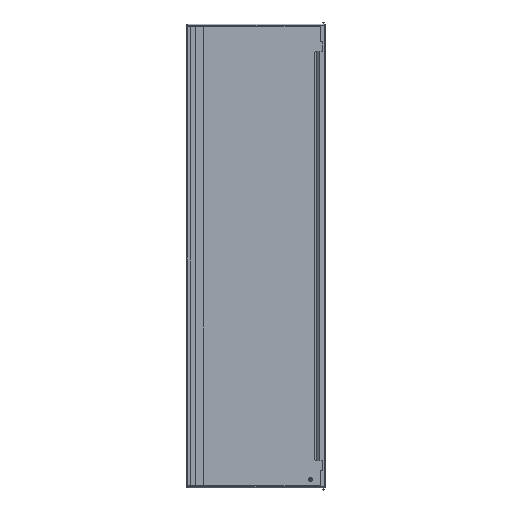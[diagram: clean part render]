
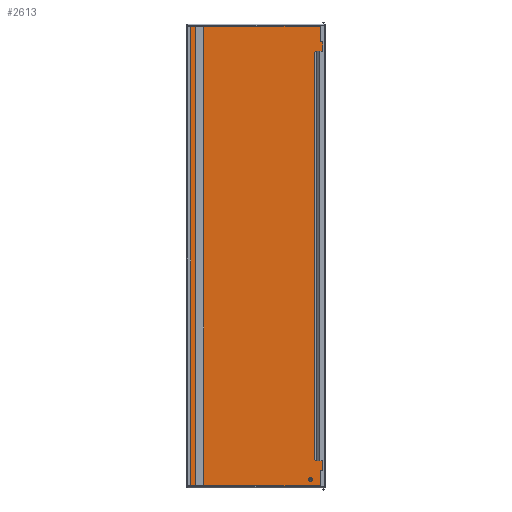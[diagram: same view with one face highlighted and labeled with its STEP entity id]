
A CAD part, top view. The second image highlights one B-rep face of the part: STEP entity #2613.
In plain terms, the highlighted planar face has unit normal (0, 0, 1).
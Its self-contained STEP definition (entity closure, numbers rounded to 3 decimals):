
#376 = EDGE_LOOP ( 'NONE', ( #1842, #1844, #1843, #1845 ) ) ;
#377 = EDGE_LOOP ( 'NONE', ( #1846, #1848, #1847, #1849, #1850, #1851 ) ) ;
#378 = EDGE_LOOP ( 'NONE', ( #1853, #1854 ) ) ;
#379 = EDGE_LOOP ( 'NONE', ( #1852, #1856, #1855, #1857 ) ) ;
#561 = VERTEX_POINT ( 'NONE', #1625 ) ;
#562 = VERTEX_POINT ( 'NONE', #1624 ) ;
#575 = VERTEX_POINT ( 'NONE', #1611 ) ;
#576 = VERTEX_POINT ( 'NONE', #1610 ) ;
#577 = VERTEX_POINT ( 'NONE', #1609 ) ;
#578 = VERTEX_POINT ( 'NONE', #1608 ) ;
#579 = VERTEX_POINT ( 'NONE', #1607 ) ;
#580 = VERTEX_POINT ( 'NONE', #1606 ) ;
#581 = VERTEX_POINT ( 'NONE', #1605 ) ;
#582 = VERTEX_POINT ( 'NONE', #1604 ) ;
#583 = VERTEX_POINT ( 'NONE', #1603 ) ;
#584 = VERTEX_POINT ( 'NONE', #1602 ) ;
#585 = VERTEX_POINT ( 'NONE', #1601 ) ;
#586 = VERTEX_POINT ( 'NONE', #1600 ) ;
#587 = VERTEX_POINT ( 'NONE', #1599 ) ;
#588 = VERTEX_POINT ( 'NONE', #1598 ) ;
#997 = FACE_BOUND ( 'NONE', #379, .T. ) ;
#999 = FACE_BOUND ( 'NONE', #378, .T. ) ;
#1001 = FACE_BOUND ( 'NONE', #377, .T. ) ;
#1003 = AXIS2_PLACEMENT_3D ( 'NONE', #1301, #1300, #1299 ) ;
#1007 = FACE_OUTER_BOUND ( 'NONE', #376, .T. ) ;
#1299 = DIRECTION ( 'NONE',  ( 1., 0., 0. ) ) ;
#1300 = DIRECTION ( 'NONE',  ( 0., 0., 1. ) ) ;
#1301 = CARTESIAN_POINT ( 'NONE',  ( 0., 0., -12. ) ) ;
#1302 = PLANE ( 'NONE',  #1003 ) ;
#1598 = CARTESIAN_POINT ( 'NONE',  ( -224.6, -856.75, -12. ) ) ;
#1599 = CARTESIAN_POINT ( 'NONE',  ( -195.5, -856.75, -12. ) ) ;
#1600 = CARTESIAN_POINT ( 'NONE',  ( -224.6, 856.75, -12. ) ) ;
#1601 = CARTESIAN_POINT ( 'NONE',  ( -195.5, 856.75, -12. ) ) ;
#1602 = CARTESIAN_POINT ( 'NONE',  ( 224.621, 765.75, -12. ) ) ;
#1603 = CARTESIAN_POINT ( 'NONE',  ( 220.121, 761.25, -12. ) ) ;
#1604 = CARTESIAN_POINT ( 'NONE',  ( 220.121, -761.25, -12. ) ) ;
#1605 = CARTESIAN_POINT ( 'NONE',  ( 224.621, -765.75, -12. ) ) ;
#1606 = CARTESIAN_POINT ( 'NONE',  ( 226.879, 765.75, -12. ) ) ;
#1607 = CARTESIAN_POINT ( 'NONE',  ( 226.879, -765.75, -12. ) ) ;
#1608 = CARTESIAN_POINT ( 'NONE',  ( -256., -863.75, -12. ) ) ;
#1609 = CARTESIAN_POINT ( 'NONE',  ( -256., 863.75, -12. ) ) ;
#1610 = CARTESIAN_POINT ( 'NONE',  ( 256., -863.75, -12. ) ) ;
#1611 = CARTESIAN_POINT ( 'NONE',  ( 256., 863.75, -12. ) ) ;
#1624 = CARTESIAN_POINT ( 'NONE',  ( 204.25, -836.75, -12. ) ) ;
#1625 = CARTESIAN_POINT ( 'NONE',  ( 203.75, -836.75, -12. ) ) ;
#1842 = ORIENTED_EDGE ( 'NONE', *, *, #2764, .F. ) ;
#1843 = ORIENTED_EDGE ( 'NONE', *, *, #2765, .F. ) ;
#1844 = ORIENTED_EDGE ( 'NONE', *, *, #2763, .F. ) ;
#1845 = ORIENTED_EDGE ( 'NONE', *, *, #2767, .F. ) ;
#1846 = ORIENTED_EDGE ( 'NONE', *, *, #2768, .F. ) ;
#1847 = ORIENTED_EDGE ( 'NONE', *, *, #2769, .T. ) ;
#1848 = ORIENTED_EDGE ( 'NONE', *, *, #2766, .T. ) ;
#1849 = ORIENTED_EDGE ( 'NONE', *, *, #2770, .T. ) ;
#1850 = ORIENTED_EDGE ( 'NONE', *, *, #2771, .T. ) ;
#1851 = ORIENTED_EDGE ( 'NONE', *, *, #2772, .F. ) ;
#1852 = ORIENTED_EDGE ( 'NONE', *, *, #2775, .F. ) ;
#1853 = ORIENTED_EDGE ( 'NONE', *, *, #2773, .F. ) ;
#1854 = ORIENTED_EDGE ( 'NONE', *, *, #2747, .F. ) ;
#1855 = ORIENTED_EDGE ( 'NONE', *, *, #2776, .F. ) ;
#1856 = ORIENTED_EDGE ( 'NONE', *, *, #2774, .F. ) ;
#1857 = ORIENTED_EDGE ( 'NONE', *, *, #2777, .F. ) ;
#2508 = CIRCLE ( 'NONE', #4599, 0.25 ) ;
#2509 = CIRCLE ( 'NONE', #4613, 4.5 ) ;
#2510 = CIRCLE ( 'NONE', #4604, 4.5 ) ;
#2517 = CIRCLE ( 'NONE', #4371, 0.25 ) ;
#2613 = ADVANCED_FACE ( 'NONE', ( #1007, #1001, #999, #997 ), #1302, .T. ) ;
#2747 = EDGE_CURVE ( 'NONE', #561, #562, #2517, .T. ) ;
#2763 = EDGE_CURVE ( 'NONE', #577, #575, #4756, .T. ) ;
#2764 = EDGE_CURVE ( 'NONE', #575, #576, #4753, .T. ) ;
#2765 = EDGE_CURVE ( 'NONE', #578, #577, #4750, .T. ) ;
#2766 = EDGE_CURVE ( 'NONE', #579, #581, #4747, .T. ) ;
#2767 = EDGE_CURVE ( 'NONE', #576, #578, #4744, .T. ) ;
#2768 = EDGE_CURVE ( 'NONE', #579, #580, #4741, .T. ) ;
#2769 = EDGE_CURVE ( 'NONE', #581, #582, #2510, .T. ) ;
#2770 = EDGE_CURVE ( 'NONE', #582, #583, #4735, .T. ) ;
#2771 = EDGE_CURVE ( 'NONE', #583, #584, #2509, .T. ) ;
#2772 = EDGE_CURVE ( 'NONE', #580, #584, #4729, .T. ) ;
#2773 = EDGE_CURVE ( 'NONE', #562, #561, #2508, .T. ) ;
#2774 = EDGE_CURVE ( 'NONE', #587, #585, #4723, .T. ) ;
#2775 = EDGE_CURVE ( 'NONE', #585, #586, #4720, .T. ) ;
#2776 = EDGE_CURVE ( 'NONE', #588, #587, #4717, .T. ) ;
#2777 = EDGE_CURVE ( 'NONE', #586, #588, #4714, .T. ) ;
#4371 = AXIS2_PLACEMENT_3D ( 'NONE', #4796, #4795, #4794 ) ;
#4590 = VECTOR ( 'NONE', #4712, 1000. ) ;
#4591 = VECTOR ( 'NONE', #4715, 1000. ) ;
#4594 = VECTOR ( 'NONE', #4718, 1000. ) ;
#4597 = VECTOR ( 'NONE', #4721, 1000. ) ;
#4598 = VECTOR ( 'NONE', #4727, 1000. ) ;
#4599 = AXIS2_PLACEMENT_3D ( 'NONE', #4730, #4726, #4725 ) ;
#4601 = VECTOR ( 'NONE', #4733, 1000. ) ;
#4602 = VECTOR ( 'NONE', #4739, 1000. ) ;
#4604 = AXIS2_PLACEMENT_3D ( 'NONE', #4760, #4738, #4737 ) ;
#4605 = VECTOR ( 'NONE', #4742, 1000. ) ;
#4607 = VECTOR ( 'NONE', #4745, 1000. ) ;
#4608 = VECTOR ( 'NONE', #4748, 1000. ) ;
#4609 = VECTOR ( 'NONE', #4751, 1000. ) ;
#4610 = VECTOR ( 'NONE', #4754, 1000. ) ;
#4613 = AXIS2_PLACEMENT_3D ( 'NONE', #4736, #4732, #4731 ) ;
#4712 = DIRECTION ( 'NONE',  ( 0., -1., 0. ) ) ;
#4713 = CARTESIAN_POINT ( 'NONE',  ( -224.6, -856.75, -12. ) ) ;
#4714 = LINE ( 'NONE', #4713, #4590 ) ;
#4715 = DIRECTION ( 'NONE',  ( 1., 0., 0. ) ) ;
#4716 = CARTESIAN_POINT ( 'NONE',  ( -224.6, -856.75, -12. ) ) ;
#4717 = LINE ( 'NONE', #4716, #4591 ) ;
#4718 = DIRECTION ( 'NONE',  ( -1., 0., 0. ) ) ;
#4719 = CARTESIAN_POINT ( 'NONE',  ( -224.6, 856.75, -12. ) ) ;
#4720 = LINE ( 'NONE', #4719, #4594 ) ;
#4721 = DIRECTION ( 'NONE',  ( 0., 1., 0. ) ) ;
#4722 = CARTESIAN_POINT ( 'NONE',  ( -195.5, -856.75, -12. ) ) ;
#4723 = LINE ( 'NONE', #4722, #4597 ) ;
#4725 = DIRECTION ( 'NONE',  ( 1., 0., 0. ) ) ;
#4726 = DIRECTION ( 'NONE',  ( 0., 0., 1. ) ) ;
#4727 = DIRECTION ( 'NONE',  ( -1., 0., 0. ) ) ;
#4728 = CARTESIAN_POINT ( 'NONE',  ( 226.879, 765.75, -12. ) ) ;
#4729 = LINE ( 'NONE', #4728, #4598 ) ;
#4730 = CARTESIAN_POINT ( 'NONE',  ( 204., -836.75, -12. ) ) ;
#4731 = DIRECTION ( 'NONE',  ( 1., 0., 0. ) ) ;
#4732 = DIRECTION ( 'NONE',  ( 0., 0., -1. ) ) ;
#4733 = DIRECTION ( 'NONE',  ( 0., 1., 0. ) ) ;
#4734 = CARTESIAN_POINT ( 'NONE',  ( 220.121, -788.171, -12. ) ) ;
#4735 = LINE ( 'NONE', #4734, #4601 ) ;
#4736 = CARTESIAN_POINT ( 'NONE',  ( 224.621, 761.25, -12. ) ) ;
#4737 = DIRECTION ( 'NONE',  ( 1., 0., 0. ) ) ;
#4738 = DIRECTION ( 'NONE',  ( 0., 0., -1. ) ) ;
#4739 = DIRECTION ( 'NONE',  ( 0., 1., 0. ) ) ;
#4740 = CARTESIAN_POINT ( 'NONE',  ( 226.879, -788.171, -12. ) ) ;
#4741 = LINE ( 'NONE', #4740, #4602 ) ;
#4742 = DIRECTION ( 'NONE',  ( -1., 0., 0. ) ) ;
#4743 = CARTESIAN_POINT ( 'NONE',  ( 0., -863.75, -12. ) ) ;
#4744 = LINE ( 'NONE', #4743, #4605 ) ;
#4745 = DIRECTION ( 'NONE',  ( -1., 0., 0. ) ) ;
#4746 = CARTESIAN_POINT ( 'NONE',  ( 226.879, -765.75, -12. ) ) ;
#4747 = LINE ( 'NONE', #4746, #4607 ) ;
#4748 = DIRECTION ( 'NONE',  ( 0., 1., 0. ) ) ;
#4749 = CARTESIAN_POINT ( 'NONE',  ( -256., 0., -12. ) ) ;
#4750 = LINE ( 'NONE', #4749, #4608 ) ;
#4751 = DIRECTION ( 'NONE',  ( 0., -1., 0. ) ) ;
#4752 = CARTESIAN_POINT ( 'NONE',  ( 256., 0., -12. ) ) ;
#4753 = LINE ( 'NONE', #4752, #4609 ) ;
#4754 = DIRECTION ( 'NONE',  ( 1., 0., 0. ) ) ;
#4755 = CARTESIAN_POINT ( 'NONE',  ( 0., 863.75, -12. ) ) ;
#4756 = LINE ( 'NONE', #4755, #4610 ) ;
#4760 = CARTESIAN_POINT ( 'NONE',  ( 224.621, -761.25, -12. ) ) ;
#4794 = DIRECTION ( 'NONE',  ( 1., 0., 0. ) ) ;
#4795 = DIRECTION ( 'NONE',  ( 0., 0., 1. ) ) ;
#4796 = CARTESIAN_POINT ( 'NONE',  ( 204., -836.75, -12. ) ) ;
